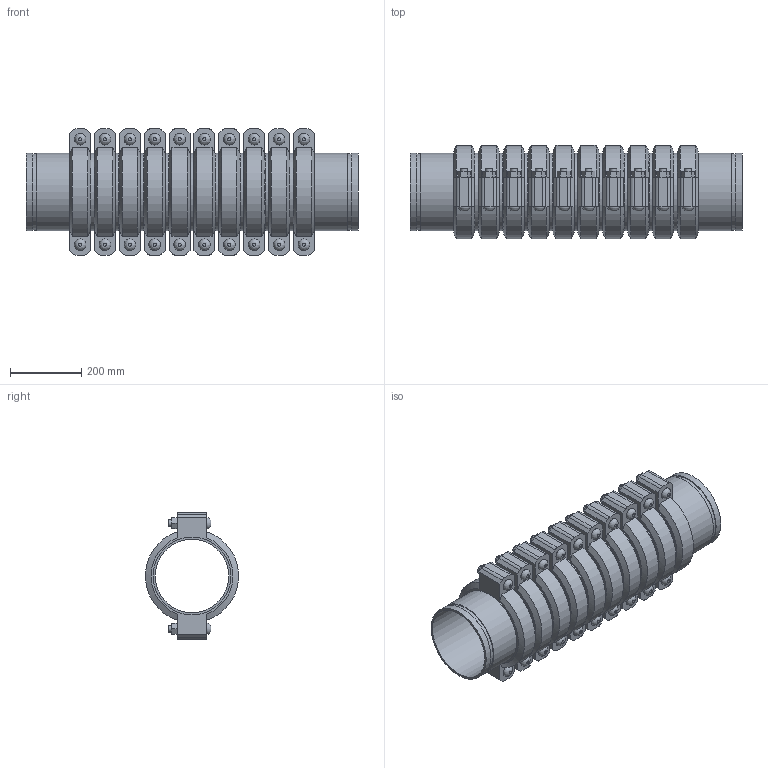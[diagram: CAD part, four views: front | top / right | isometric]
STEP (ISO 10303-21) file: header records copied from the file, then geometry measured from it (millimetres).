
FILE_DESCRIPTION(/* description */ ('VIC EXPANSION JOINT 10 COUPLINGS COMPRESSED STYLE 155 (OGS)','CAx-IF Rec.Pracs.---Representation and Presentation of Product Manufacturing Information (PMI)---4.0---2014-10-13'),/* implementation_level */ '2;1');
FILE_NAME(/* name */ 'C:\Users\kkamble\AppData\Roaming\Autodesk\ApplicationPlugins\Victaulic.Temp\A539\Victaulic_IPS_Expansion Joint_Compressed_10 Couplings_Style 155 (OGS)_8 (200).stp',/* time_stamp */ '2021-06-27T00:17:11+02:00',/* author */ ('kkamble'),/* organization */ ('Victaulic'),/* preprocessor_version */ 'ST-DEVELOPER v17.2',/* originating_system */ 'Autodesk Inventor 2019',/* authorisation */ '');
FILE_SCHEMA (('AP242_MANAGED_MODEL_BASED_3D_ENGINEERING_MIM_LF { 1 0 10303 442 1 1 4 }'));
Length unit declared in the file: inch
Products named in the file (4): 155-08.0; Nipple-08.0; Nipple-08.0_1; 075_10_Coup-08.0
Assembly tree (21 placements, depth 2):
  155-08.0
    Nipple-08.0  x2
    Nipple-08.0_1  x9
    075_10_Coup-08.0  x10
Bounding box: 933.45 x 261.72 x 354.84 mm (x, y, z)
Volume: 17063553 mm3; surface area: 3100491.5 mm2
Topology: 21 solids, 41 shells, 702 faces, 1660 edges, 1164 vertices
Faces by surface type: plane 426, cylinder 216, cone 40, bspline 20
Full cylindrical faces by diameter (mm): 19.05 x40, 21.209 x20, 206.985 x11, 212.725 x10, 214.401 x22, 219.075 x53
Entity records: 2890 total; most frequent: CARTESIAN_POINT 505, DIRECTION 485, ORIENTED_EDGE 386, AXIS2_PLACEMENT_3D 196, EDGE_CURVE 193, VERTEX_POINT 138, EDGE_LOOP 107, LINE 93
